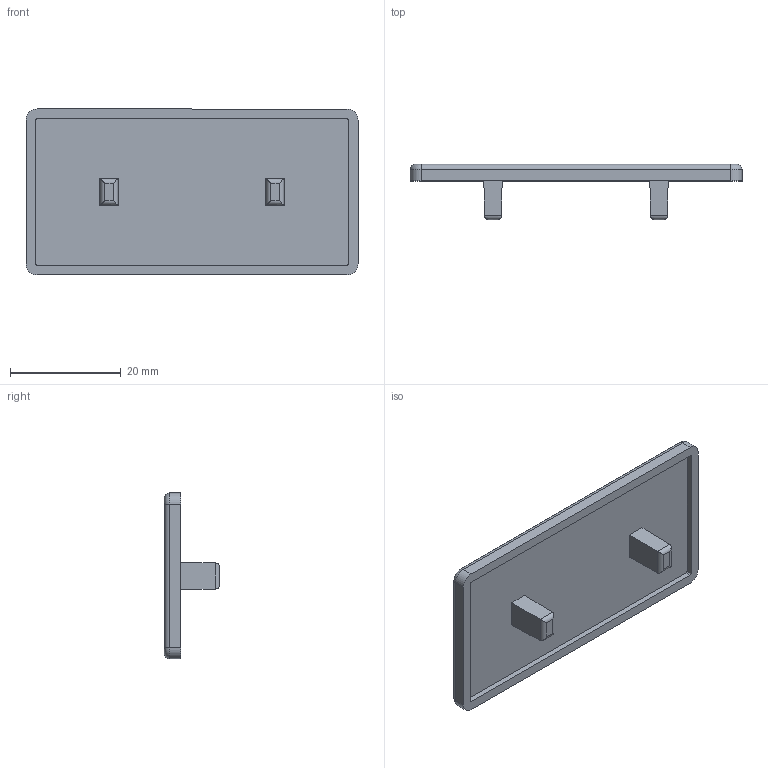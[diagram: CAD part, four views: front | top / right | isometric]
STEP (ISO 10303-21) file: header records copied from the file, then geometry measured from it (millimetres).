
FILE_DESCRIPTION (( 'STEP AP214' ), '1' );
FILE_NAME ('J3C6.step', '2017-05-24T07:38:29', ( 'admin' ), ( '' ), 'SwSTEP 2.0', 'SolidWorks 2014', '' );
FILE_SCHEMA (( 'AUTOMOTIVE_DESIGN' ));
Length unit declared in the file: millimetre
Products named in the file (1): J3C6
Bounding box: 60 x 10 x 30 mm (x, y, z)
Volume: 4107.2 mm3; surface area: 4455 mm2
Topology: 1 solids, 1 shells, 45 faces, 104 edges, 64 vertices
Faces by surface type: plane 21, cylinder 20, torus 4
Entity records: 1292 total; most frequent: CARTESIAN_POINT 238, DIRECTION 216, ORIENTED_EDGE 208, EDGE_CURVE 104, AXIS2_PLACEMENT_3D 74, LINE 68, VECTOR 68, VERTEX_POINT 64
